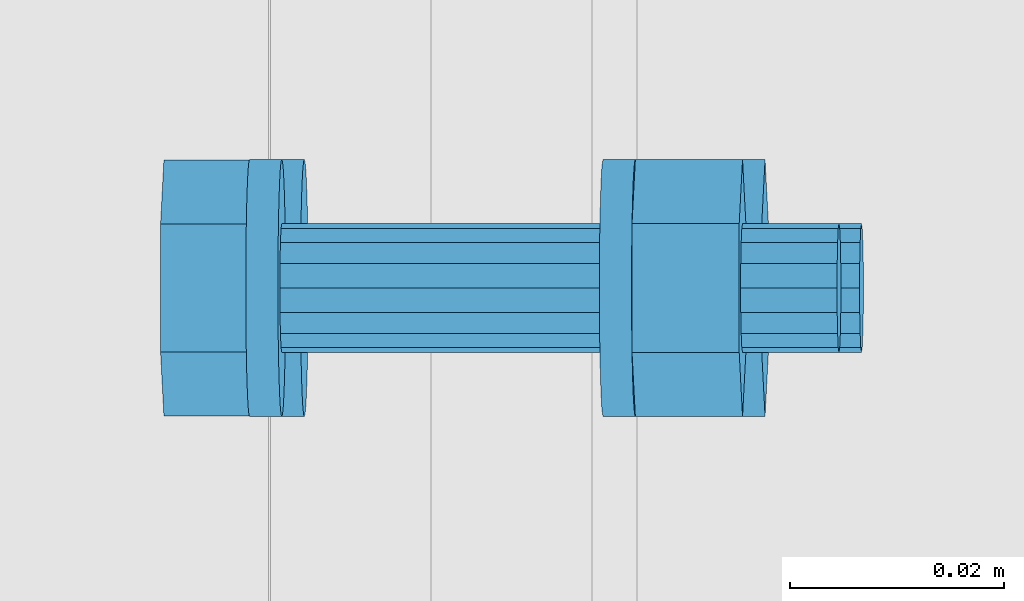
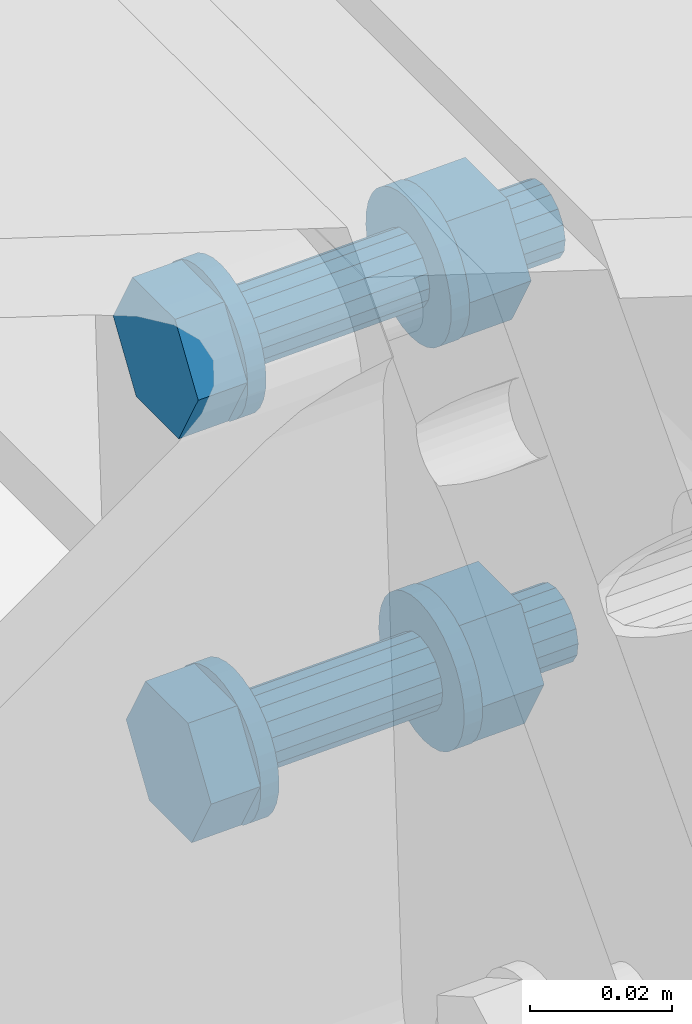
# One storey, part 129 of 476: 1 mechanical fastener.
"""IFC2X3 building model written with IfcOpenShell, lengths in millimetres."""

from ifc_helpers import new_model, entity, si_unit, converted_unit, origin_with_axes, place, context, project, spatial, faceted_brep, element, save


model = new_model("IFC2X3")

# Units and contexts
model_context = context("Model", 3, precision=1e-09, world=origin_with_axes())
ifc_project = project(units=[si_unit("LENGTHUNIT", "METRE", prefix="MILLI"), si_unit("AREAUNIT", "SQUARE_METRE"), si_unit("VOLUMEUNIT", "CUBIC_METRE"), converted_unit("PLANEANGLEUNIT", "DEGREE", entity("IfcPlaneAngleMeasure", 0.01745329), si_unit("PLANEANGLEUNIT", "RADIAN"), dimensions=[0, 0, 0, 0, 0, 0, 0])], contexts=[model_context])

# Site, building, storey
site_placement = place(None, origin_with_axes())
site = spatial("IfcSite", under=ifc_project, at=site_placement, Name="mKR Teilneubau & Sanierung BA1 - Ostfildern", CompositionType="ELEMENT")
building_placement = place(site_placement, origin_with_axes())
building = spatial("IfcBuilding", under=site, at=building_placement, Name="Struktur 1", CompositionType="ELEMENT")
storey_placement = place(building_placement, origin_with_axes())
storey = spatial("IfcBuildingStorey", under=building, at=storey_placement, Name="Default Storey", CompositionType="ELEMENT", Elevation=0.0)

# Mechanical fastener
mechanical_fastener_placement = place(None, origin_with_axes())
element("IfcMechanicalFastener", 1, at=mechanical_fastener_placement, inside=storey, ObjectType="Bolt#2", NominalDiameter=12.0, NominalLength=55.0, context=model_context, shape_type="Brep", body=[
    faceted_brep([(12697.650625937, -7992.673034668, 5287.367806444), (12700.649273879, -7992.673034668, 5287.457864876), (12700.642352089, -7995.014118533, 5287.688337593), (12697.643704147, -7995.014118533, 5287.598279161), (12700.621852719, -7997.265235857, 5288.370898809), (12697.623204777, -7997.265235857, 5288.280840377), (12700.588563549, -7999.339877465, 5289.479318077), (12697.589915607, -7999.339877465, 5289.389259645), (12700.543763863, -8001.158316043, 5290.970999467), (12697.545115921, -8001.158316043, 5290.880941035), (12700.489175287, -8002.650670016, 5292.7886185), (12697.490527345, -8002.650670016, 5292.698560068), (12700.42689563, -8003.759589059, 5294.862325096), (12697.428247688, -8003.759589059, 5294.772266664), (12700.359318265, -8004.442458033, 5297.112427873), (12697.360670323, -8004.442458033, 5297.022369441), (12700.289040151, -8004.673034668, 5299.452456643), (12697.290392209, -8004.673034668, 5299.362398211), (12700.218762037, -8004.442458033, 5301.792485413), (12697.220114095, -8004.442458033, 5301.702426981), (12700.151184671, -8003.759589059, 5304.04258819), (12697.15253673, -8003.759589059, 5303.952529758), (12700.088905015, -8002.650670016, 5306.116294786), (12697.090257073, -8002.650670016, 5306.026236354), (12700.034316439, -8001.158316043, 5307.933913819), (12697.035668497, -8001.158316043, 5307.843855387), (12699.989516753, -7999.339877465, 5309.425595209), (12696.990868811, -7999.339877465, 5309.335536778), (12699.956227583, -7997.265235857, 5310.534014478), (12696.957579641, -7997.265235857, 5310.443956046), (12699.935728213, -7995.014118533, 5311.216575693), (12696.937080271, -7995.014118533, 5311.126517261), (12699.928806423, -7992.673034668, 5311.44704841), (12696.930158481, -7992.673034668, 5311.356989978), (12699.935728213, -7990.331950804, 5311.216575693), (12696.937080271, -7990.331950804, 5311.126517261), (12699.956227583, -7988.08083348, 5310.534014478), (12696.957579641, -7988.08083348, 5310.443956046), (12699.989516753, -7986.006191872, 5309.425595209), (12696.990868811, -7986.006191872, 5309.335536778), (12700.034316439, -7984.187753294, 5307.933913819), (12697.035668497, -7984.187753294, 5307.843855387), (12700.088905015, -7982.695399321, 5306.116294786), (12697.090257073, -7982.695399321, 5306.026236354), (12700.151184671, -7981.586480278, 5304.04258819), (12697.15253673, -7981.586480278, 5303.952529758), (12700.218762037, -7980.903611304, 5301.792485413), (12697.220114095, -7980.903611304, 5301.702426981), (12700.289040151, -7980.673034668, 5299.452456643), (12697.290392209, -7980.673034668, 5299.362398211), (12700.359318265, -7980.903611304, 5297.112427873), (12697.360670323, -7980.903611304, 5297.022369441), (12700.42689563, -7981.586480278, 5294.862325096), (12697.428247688, -7981.586480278, 5294.772266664), (12700.489175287, -7982.695399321, 5292.7886185), (12697.490527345, -7982.695399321, 5292.698560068), (12700.543763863, -7984.187753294, 5290.970999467), (12697.545115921, -7984.187753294, 5290.880941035), (12700.588563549, -7986.006191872, 5289.479318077), (12697.589915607, -7986.006191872, 5289.389259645), (12700.621852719, -7988.08083348, 5288.370898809), (12697.623204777, -7988.08083348, 5288.280840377), (12700.642352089, -7990.331950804, 5287.688337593), (12697.643704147, -7990.331950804, 5287.598279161)], [[[0, 1, 2, 3]], [[3, 2, 4, 5]], [[5, 4, 6, 7]], [[7, 6, 8, 9]], [[9, 8, 10, 11]], [[11, 10, 12, 13]], [[13, 12, 14, 15]], [[15, 14, 16, 17]], [[17, 16, 18, 19]], [[19, 18, 20, 21]], [[21, 20, 22, 23]], [[23, 22, 24, 25]], [[25, 24, 26, 27]], [[27, 26, 28, 29]], [[29, 28, 30, 31]], [[31, 30, 32, 33]], [[33, 32, 34, 35]], [[35, 34, 36, 37]], [[37, 36, 38, 39]], [[39, 38, 40, 41]], [[41, 40, 42, 43]], [[43, 42, 44, 45]], [[45, 44, 46, 47]], [[47, 46, 48, 49]], [[49, 48, 50, 51]], [[51, 50, 52, 53]], [[53, 52, 54, 55]], [[55, 54, 56, 57]], [[57, 56, 58, 59]], [[59, 58, 60, 61]], [[61, 60, 62, 63]], [[63, 62, 1, 0]], [[0, 3, 5, 7, 9, 11, 13, 15, 17, 19, 21, 23, 25, 27, 29, 31, 33, 35, 37, 39, 41, 43, 45, 47, 49, 51, 53, 55, 57, 59, 61, 63]], [[1, 62, 60, 58, 56, 54, 52, 50, 48, 46, 44, 42, 40, 38, 36, 34, 32, 30, 28, 26, 24, 22, 20, 18, 16, 14, 12, 10, 8, 6, 4, 2]]]),
    faceted_brep([(12695.549262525, -7992.673034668, 5357.336258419), (12698.547910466, -7992.673034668, 5357.426316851), (12698.540988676, -7995.014118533, 5357.656789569), (12695.542340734, -7995.014118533, 5357.566731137), (12698.520489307, -7997.265235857, 5358.339350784), (12695.521841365, -7997.265235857, 5358.249292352), (12698.487200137, -7999.339877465, 5359.447770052), (12695.488552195, -7999.339877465, 5359.35771162), (12698.44240045, -8001.158316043, 5360.939451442), (12695.443752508, -8001.158316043, 5360.84939301), (12698.387811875, -8002.650670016, 5362.757070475), (12695.389163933, -8002.650670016, 5362.667012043), (12698.325532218, -8003.759589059, 5364.830777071), (12695.326884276, -8003.759589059, 5364.740718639), (12698.257954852, -8004.442458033, 5367.080879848), (12695.259306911, -8004.442458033, 5366.990821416), (12698.187676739, -8004.673034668, 5369.420908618), (12695.189028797, -8004.673034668, 5369.330850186), (12698.117398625, -8004.442458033, 5371.760937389), (12695.118750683, -8004.442458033, 5371.670878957), (12698.049821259, -8003.759589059, 5374.011040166), (12695.051173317, -8003.759589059, 5373.920981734), (12697.987541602, -8002.650670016, 5376.084746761), (12694.988893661, -8002.650670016, 5375.994688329), (12697.932953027, -8001.158316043, 5377.902365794), (12694.934305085, -8001.158316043, 5377.812307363), (12697.888153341, -7999.339877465, 5379.394047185), (12694.889505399, -7999.339877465, 5379.303988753), (12697.85486417, -7997.265235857, 5380.502466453), (12694.856216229, -7997.265235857, 5380.412408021), (12697.834364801, -7995.014118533, 5381.185027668), (12694.835716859, -7995.014118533, 5381.094969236), (12697.827443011, -7992.673034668, 5381.415500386), (12694.828795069, -7992.673034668, 5381.325441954), (12697.834364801, -7990.331950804, 5381.185027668), (12694.835716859, -7990.331950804, 5381.094969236), (12697.85486417, -7988.08083348, 5380.502466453), (12694.856216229, -7988.08083348, 5380.412408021), (12697.888153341, -7986.006191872, 5379.394047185), (12694.889505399, -7986.006191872, 5379.303988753), (12697.932953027, -7984.187753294, 5377.902365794), (12694.934305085, -7984.187753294, 5377.812307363), (12697.987541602, -7982.695399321, 5376.084746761), (12694.988893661, -7982.695399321, 5375.994688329), (12698.049821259, -7981.586480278, 5374.011040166), (12695.051173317, -7981.586480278, 5373.920981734), (12698.117398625, -7980.903611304, 5371.760937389), (12695.118750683, -7980.903611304, 5371.670878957), (12698.187676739, -7980.673034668, 5369.420908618), (12695.189028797, -7980.673034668, 5369.330850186), (12698.257954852, -7980.903611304, 5367.080879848), (12695.259306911, -7980.903611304, 5366.990821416), (12698.325532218, -7981.586480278, 5364.830777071), (12695.326884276, -7981.586480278, 5364.740718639), (12698.387811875, -7982.695399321, 5362.757070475), (12695.389163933, -7982.695399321, 5362.667012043), (12698.44240045, -7984.187753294, 5360.939451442), (12695.443752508, -7984.187753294, 5360.84939301), (12698.487200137, -7986.006191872, 5359.447770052), (12695.488552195, -7986.006191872, 5359.35771162), (12698.520489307, -7988.08083348, 5358.339350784), (12695.521841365, -7988.08083348, 5358.249292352), (12698.540988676, -7990.331950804, 5357.656789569), (12695.542340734, -7990.331950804, 5357.566731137)], [[[0, 1, 2, 3]], [[3, 2, 4, 5]], [[5, 4, 6, 7]], [[7, 6, 8, 9]], [[9, 8, 10, 11]], [[11, 10, 12, 13]], [[13, 12, 14, 15]], [[15, 14, 16, 17]], [[17, 16, 18, 19]], [[19, 18, 20, 21]], [[21, 20, 22, 23]], [[23, 22, 24, 25]], [[25, 24, 26, 27]], [[27, 26, 28, 29]], [[29, 28, 30, 31]], [[31, 30, 32, 33]], [[33, 32, 34, 35]], [[35, 34, 36, 37]], [[37, 36, 38, 39]], [[39, 38, 40, 41]], [[41, 40, 42, 43]], [[43, 42, 44, 45]], [[45, 44, 46, 47]], [[47, 46, 48, 49]], [[49, 48, 50, 51]], [[51, 50, 52, 53]], [[53, 52, 54, 55]], [[55, 54, 56, 57]], [[57, 56, 58, 59]], [[59, 58, 60, 61]], [[61, 60, 62, 63]], [[63, 62, 1, 0]], [[0, 3, 5, 7, 9, 11, 13, 15, 17, 19, 21, 23, 25, 27, 29, 31, 33, 35, 37, 39, 41, 43, 45, 47, 49, 51, 53, 55, 57, 59, 61, 63]], [[1, 62, 60, 58, 56, 54, 52, 50, 48, 46, 44, 42, 40, 38, 36, 34, 32, 30, 28, 26, 24, 22, 20, 18, 16, 14, 12, 10, 8, 6, 4, 2]]]),
    faceted_brep([(12696.979590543, -7998.650534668, 5309.71106581), (12688.983196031, -7998.650534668, 5309.470909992), (12689.293997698, -8004.628034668, 5299.122242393), (12697.290392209, -8004.628034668, 5299.362398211), (12689.604799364, -7998.650534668, 5288.773574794), (12697.601193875, -7998.650534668, 5289.013730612), (12689.604799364, -7986.695534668, 5288.773574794), (12697.601193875, -7986.695534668, 5289.013730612), (12689.293997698, -7980.718034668, 5299.122242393), (12697.290392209, -7980.718034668, 5299.362398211), (12688.983196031, -7986.695534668, 5309.470909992), (12696.979590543, -7986.695534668, 5309.71106581)], [[[0, 1, 2, 3]], [[3, 2, 4, 5]], [[5, 4, 6, 7]], [[7, 6, 8, 9]], [[9, 8, 10, 11]], [[11, 10, 1, 0]], [[4, 2, 1, 10, 8, 6]], [[0, 3, 5, 7, 9, 11]]]),
    faceted_brep([(12694.87822713, -7998.650534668, 5379.679517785), (12686.881832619, -7998.650534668, 5379.439361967), (12687.192634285, -8004.628034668, 5369.090694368), (12695.189028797, -8004.628034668, 5369.330850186), (12687.503435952, -7998.650534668, 5358.742026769), (12695.499830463, -7998.650534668, 5358.982182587), (12687.503435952, -7986.695534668, 5358.742026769), (12695.499830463, -7986.695534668, 5358.982182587), (12687.192634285, -7980.718034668, 5369.090694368), (12695.189028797, -7980.718034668, 5369.330850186), (12686.881832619, -7986.695534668, 5379.439361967), (12694.87822713, -7986.695534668, 5379.679517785)], [[[0, 1, 2, 3]], [[3, 2, 4, 5]], [[5, 4, 6, 7]], [[7, 6, 8, 9]], [[9, 8, 10, 11]], [[11, 10, 1, 0]], [[4, 2, 1, 10, 8, 6]], [[0, 3, 5, 7, 9, 11]]]),
    faceted_brep([(12700.469157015, -7992.673034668, 5293.45516076), (12730.455636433, -7992.673034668, 5294.355745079), (12730.441925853, -7994.969135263, 5294.812262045), (12700.455446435, -7994.969135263, 5293.911677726), (12730.402881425, -7996.915675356, 5296.112312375), (12700.416402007, -7996.915675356, 5295.211728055), (12730.344447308, -7998.216311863, 5298.057975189), (12700.357967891, -7998.216311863, 5297.157390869), (12730.275519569, -7998.673034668, 5300.353040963), (12700.289040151, -7998.673034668, 5299.452456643), (12730.206591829, -7998.216311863, 5302.648106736), (12700.220112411, -7998.216311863, 5301.747522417), (12730.148157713, -7996.915675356, 5304.593769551), (12700.161678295, -7996.915675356, 5303.693185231), (12730.109113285, -7994.969135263, 5305.89381988), (12700.122633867, -7994.969135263, 5304.99323556), (12730.095402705, -7992.673034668, 5306.350336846), (12700.108923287, -7992.673034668, 5305.449752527), (12730.109113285, -7990.376934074, 5305.89381988), (12700.122633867, -7990.376934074, 5304.99323556), (12730.148157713, -7988.430393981, 5304.593769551), (12700.161678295, -7988.430393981, 5303.693185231), (12730.206591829, -7987.129757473, 5302.648106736), (12700.220112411, -7987.129757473, 5301.747522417), (12730.275519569, -7986.673034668, 5300.353040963), (12700.289040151, -7986.673034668, 5299.452456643), (12730.344447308, -7987.129757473, 5298.057975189), (12700.357967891, -7987.129757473, 5297.157390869), (12730.402881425, -7988.430393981, 5296.112312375), (12700.416402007, -7988.430393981, 5295.211728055), (12730.441925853, -7990.376934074, 5294.812262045), (12700.455446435, -7990.376934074, 5293.911677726)], [[[0, 1, 2, 3]], [[3, 2, 4, 5]], [[5, 4, 6, 7]], [[7, 6, 8, 9]], [[9, 8, 10, 11]], [[11, 10, 12, 13]], [[13, 12, 14, 15]], [[15, 14, 16, 17]], [[17, 16, 18, 19]], [[19, 18, 20, 21]], [[21, 20, 22, 23]], [[23, 22, 24, 25]], [[25, 24, 26, 27]], [[27, 26, 28, 29]], [[29, 28, 30, 31]], [[31, 30, 1, 0]], [[0, 3, 5, 7, 9, 11, 13, 15, 17, 19, 21, 23, 25, 27, 29, 31]], [[1, 30, 28, 26, 24, 22, 20, 18, 16, 14, 12, 10, 8, 6, 4, 2]]]),
    faceted_brep([(12698.367793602, -7992.673034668, 5363.423612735), (12728.35427302, -7992.673034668, 5364.324197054), (12728.340562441, -7994.969135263, 5364.780714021), (12698.354083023, -7994.969135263, 5363.880129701), (12728.301518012, -7996.915675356, 5366.08076435), (12698.315038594, -7996.915675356, 5365.18018003), (12728.243083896, -7998.216311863, 5368.026427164), (12698.256604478, -7998.216311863, 5367.125842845), (12728.174156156, -7998.673034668, 5370.321492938), (12698.187676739, -7998.673034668, 5369.420908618), (12728.105228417, -7998.216311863, 5372.616558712), (12698.118748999, -7998.216311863, 5371.715974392), (12728.046794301, -7996.915675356, 5374.562221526), (12698.060314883, -7996.915675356, 5373.661637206), (12728.007749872, -7994.969135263, 5375.862271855), (12698.021270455, -7994.969135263, 5374.961687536), (12727.994039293, -7992.673034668, 5376.318788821), (12698.007559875, -7992.673034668, 5375.418204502), (12728.007749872, -7990.376934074, 5375.862271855), (12698.021270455, -7990.376934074, 5374.961687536), (12728.046794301, -7988.430393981, 5374.562221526), (12698.060314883, -7988.430393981, 5373.661637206), (12728.105228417, -7987.129757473, 5372.616558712), (12698.118748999, -7987.129757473, 5371.715974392), (12728.174156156, -7986.673034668, 5370.321492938), (12698.187676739, -7986.673034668, 5369.420908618), (12728.243083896, -7987.129757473, 5368.026427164), (12698.256604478, -7987.129757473, 5367.125842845), (12728.301518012, -7988.430393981, 5366.08076435), (12698.315038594, -7988.430393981, 5365.18018003), (12728.340562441, -7990.376934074, 5364.780714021), (12698.354083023, -7990.376934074, 5363.880129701)], [[[0, 1, 2, 3]], [[3, 2, 4, 5]], [[5, 4, 6, 7]], [[7, 6, 8, 9]], [[9, 8, 10, 11]], [[11, 10, 12, 13]], [[13, 12, 14, 15]], [[15, 14, 16, 17]], [[17, 16, 18, 19]], [[19, 18, 20, 21]], [[21, 20, 22, 23]], [[23, 22, 24, 25]], [[25, 24, 26, 27]], [[27, 26, 28, 29]], [[29, 28, 30, 31]], [[31, 30, 1, 0]], [[0, 3, 5, 7, 9, 11, 13, 15, 17, 19, 21, 23, 25, 27, 29, 31]], [[1, 30, 28, 26, 24, 22, 20, 18, 16, 14, 12, 10, 8, 6, 4, 2]]]),
    faceted_brep([(12730.635753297, -7992.673034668, 5288.358449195), (12733.634401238, -7992.673034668, 5288.448507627), (12733.627479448, -7995.014118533, 5288.678980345), (12730.628831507, -7995.014118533, 5288.588921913), (12733.606980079, -7997.265235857, 5289.36154156), (12730.608332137, -7997.265235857, 5289.271483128), (12733.573690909, -7999.339877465, 5290.469960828), (12730.575042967, -7999.339877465, 5290.379902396), (12733.528891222, -8001.158316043, 5291.961642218), (12730.530243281, -8001.158316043, 5291.871583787), (12733.474302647, -8002.650670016, 5293.779261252), (12730.475654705, -8002.650670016, 5293.68920282), (12733.41202299, -8003.759589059, 5295.852967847), (12730.413375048, -8003.759589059, 5295.762909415), (12733.344445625, -8004.442458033, 5298.103070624), (12730.345797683, -8004.442458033, 5298.013012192), (12733.274167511, -8004.673034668, 5300.443099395), (12730.275519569, -8004.673034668, 5300.353040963), (12733.203889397, -8004.442458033, 5302.783128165), (12730.205241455, -8004.442458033, 5302.693069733), (12733.136312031, -8003.759589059, 5305.033230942), (12730.137664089, -8003.759589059, 5304.94317251), (12733.074032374, -8002.650670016, 5307.106937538), (12730.075384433, -8002.650670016, 5307.016879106), (12733.019443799, -8001.158316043, 5308.924556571), (12730.020795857, -8001.158316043, 5308.834498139), (12732.974644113, -7999.339877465, 5310.416237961), (12729.975996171, -7999.339877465, 5310.326179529), (12732.941354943, -7997.265235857, 5311.524657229), (12729.942707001, -7997.265235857, 5311.434598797), (12732.920855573, -7995.014118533, 5312.207218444), (12729.922207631, -7995.014118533, 5312.117160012), (12732.913933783, -7992.673034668, 5312.437691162), (12729.915285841, -7992.673034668, 5312.34763273), (12732.920855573, -7990.331950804, 5312.207218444), (12729.922207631, -7990.331950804, 5312.117160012), (12732.941354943, -7988.08083348, 5311.524657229), (12729.942707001, -7988.08083348, 5311.434598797), (12732.974644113, -7986.006191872, 5310.416237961), (12729.975996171, -7986.006191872, 5310.326179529), (12733.019443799, -7984.187753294, 5308.924556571), (12730.020795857, -7984.187753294, 5308.834498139), (12733.074032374, -7982.695399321, 5307.106937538), (12730.075384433, -7982.695399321, 5307.016879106), (12733.136312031, -7981.586480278, 5305.033230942), (12730.137664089, -7981.586480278, 5304.94317251), (12733.203889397, -7980.903611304, 5302.783128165), (12730.205241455, -7980.903611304, 5302.693069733), (12733.274167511, -7980.673034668, 5300.443099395), (12730.275519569, -7980.673034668, 5300.353040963), (12733.344445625, -7980.903611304, 5298.103070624), (12730.345797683, -7980.903611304, 5298.013012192), (12733.41202299, -7981.586480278, 5295.852967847), (12730.413375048, -7981.586480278, 5295.762909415), (12733.474302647, -7982.695399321, 5293.779261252), (12730.475654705, -7982.695399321, 5293.68920282), (12733.528891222, -7984.187753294, 5291.961642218), (12730.530243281, -7984.187753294, 5291.871583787), (12733.573690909, -7986.006191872, 5290.469960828), (12730.575042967, -7986.006191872, 5290.379902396), (12733.606980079, -7988.08083348, 5289.36154156), (12730.608332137, -7988.08083348, 5289.271483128), (12733.627479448, -7990.331950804, 5288.678980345), (12730.628831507, -7990.331950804, 5288.588921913)], [[[0, 1, 2, 3]], [[3, 2, 4, 5]], [[5, 4, 6, 7]], [[7, 6, 8, 9]], [[9, 8, 10, 11]], [[11, 10, 12, 13]], [[13, 12, 14, 15]], [[15, 14, 16, 17]], [[17, 16, 18, 19]], [[19, 18, 20, 21]], [[21, 20, 22, 23]], [[23, 22, 24, 25]], [[25, 24, 26, 27]], [[27, 26, 28, 29]], [[29, 28, 30, 31]], [[31, 30, 32, 33]], [[33, 32, 34, 35]], [[35, 34, 36, 37]], [[37, 36, 38, 39]], [[39, 38, 40, 41]], [[41, 40, 42, 43]], [[43, 42, 44, 45]], [[45, 44, 46, 47]], [[47, 46, 48, 49]], [[49, 48, 50, 51]], [[51, 50, 52, 53]], [[53, 52, 54, 55]], [[55, 54, 56, 57]], [[57, 56, 58, 59]], [[59, 58, 60, 61]], [[61, 60, 62, 63]], [[63, 62, 1, 0]], [[0, 3, 5, 7, 9, 11, 13, 15, 17, 19, 21, 23, 25, 27, 29, 31, 33, 35, 37, 39, 41, 43, 45, 47, 49, 51, 53, 55, 57, 59, 61, 63]], [[1, 62, 60, 58, 56, 54, 52, 50, 48, 46, 44, 42, 40, 38, 36, 34, 32, 30, 28, 26, 24, 22, 20, 18, 16, 14, 12, 10, 8, 6, 4, 2]]]),
    faceted_brep([(12728.534389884, -7992.673034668, 5358.326901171), (12731.533037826, -7992.673034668, 5358.416959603), (12731.526116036, -7995.014118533, 5358.64743232), (12728.527468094, -7995.014118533, 5358.557373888), (12731.505616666, -7997.265235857, 5359.329993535), (12728.506968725, -7997.265235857, 5359.239935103), (12731.472327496, -7999.339877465, 5360.438412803), (12728.473679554, -7999.339877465, 5360.348354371), (12731.42752781, -8001.158316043, 5361.930094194), (12728.428879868, -8001.158316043, 5361.840035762), (12731.372939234, -8002.650670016, 5363.747713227), (12728.374291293, -8002.650670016, 5363.657654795), (12731.310659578, -8003.759589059, 5365.821419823), (12728.312011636, -8003.759589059, 5365.731361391), (12731.243082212, -8004.442458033, 5368.0715226), (12728.24443427, -8004.442458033, 5367.981464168), (12731.172804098, -8004.673034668, 5370.41155137), (12728.174156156, -8004.673034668, 5370.321492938), (12731.102525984, -8004.442458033, 5372.75158014), (12728.103878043, -8004.442458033, 5372.661521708), (12731.034948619, -8003.759589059, 5375.001682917), (12728.036300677, -8003.759589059, 5374.911624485), (12730.972668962, -8002.650670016, 5377.075389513), (12727.97402102, -8002.650670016, 5376.985331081), (12730.918080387, -8001.158316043, 5378.893008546), (12727.919432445, -8001.158316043, 5378.802950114), (12730.8732807, -7999.339877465, 5380.384689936), (12727.874632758, -7999.339877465, 5380.294631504), (12730.83999153, -7997.265235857, 5381.493109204), (12727.841343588, -7997.265235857, 5381.403050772), (12730.819492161, -7995.014118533, 5382.17567042), (12727.820844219, -7995.014118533, 5382.085611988), (12730.81257037, -7992.673034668, 5382.406143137), (12727.813922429, -7992.673034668, 5382.316084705), (12730.819492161, -7990.331950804, 5382.17567042), (12727.820844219, -7990.331950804, 5382.085611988), (12730.83999153, -7988.08083348, 5381.493109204), (12727.841343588, -7988.08083348, 5381.403050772), (12730.8732807, -7986.006191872, 5380.384689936), (12727.874632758, -7986.006191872, 5380.294631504), (12730.918080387, -7984.187753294, 5378.893008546), (12727.919432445, -7984.187753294, 5378.802950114), (12730.972668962, -7982.695399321, 5377.075389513), (12727.97402102, -7982.695399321, 5376.985331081), (12731.034948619, -7981.586480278, 5375.001682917), (12728.036300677, -7981.586480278, 5374.911624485), (12731.102525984, -7980.903611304, 5372.75158014), (12728.103878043, -7980.903611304, 5372.661521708), (12731.172804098, -7980.673034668, 5370.41155137), (12728.174156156, -7980.673034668, 5370.321492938), (12731.243082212, -7980.903611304, 5368.0715226), (12728.24443427, -7980.903611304, 5367.981464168), (12731.310659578, -7981.586480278, 5365.821419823), (12728.312011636, -7981.586480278, 5365.731361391), (12731.372939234, -7982.695399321, 5363.747713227), (12728.374291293, -7982.695399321, 5363.657654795), (12731.42752781, -7984.187753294, 5361.930094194), (12728.428879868, -7984.187753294, 5361.840035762), (12731.472327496, -7986.006191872, 5360.438412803), (12728.473679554, -7986.006191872, 5360.348354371), (12731.505616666, -7988.08083348, 5359.329993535), (12728.506968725, -7988.08083348, 5359.239935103), (12731.526116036, -7990.331950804, 5358.64743232), (12728.527468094, -7990.331950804, 5358.557373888)], [[[0, 1, 2, 3]], [[3, 2, 4, 5]], [[5, 4, 6, 7]], [[7, 6, 8, 9]], [[9, 8, 10, 11]], [[11, 10, 12, 13]], [[13, 12, 14, 15]], [[15, 14, 16, 17]], [[17, 16, 18, 19]], [[19, 18, 20, 21]], [[21, 20, 22, 23]], [[23, 22, 24, 25]], [[25, 24, 26, 27]], [[27, 26, 28, 29]], [[29, 28, 30, 31]], [[31, 30, 32, 33]], [[33, 32, 34, 35]], [[35, 34, 36, 37]], [[37, 36, 38, 39]], [[39, 38, 40, 41]], [[41, 40, 42, 43]], [[43, 42, 44, 45]], [[45, 44, 46, 47]], [[47, 46, 48, 49]], [[49, 48, 50, 51]], [[51, 50, 52, 53]], [[53, 52, 54, 55]], [[55, 54, 56, 57]], [[57, 56, 58, 59]], [[59, 58, 60, 61]], [[61, 60, 62, 63]], [[63, 62, 1, 0]], [[0, 3, 5, 7, 9, 11, 13, 15, 17, 19, 21, 23, 25, 27, 29, 31, 33, 35, 37, 39, 41, 43, 45, 47, 49, 51, 53, 55, 57, 59, 61, 63]], [[1, 62, 60, 58, 56, 54, 52, 50, 48, 46, 44, 42, 40, 38, 36, 34, 32, 30, 28, 26, 24, 22, 20, 18, 16, 14, 12, 10, 8, 6, 4, 2]]]),
    faceted_brep([(12742.95768909, -7998.673034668, 5311.130915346), (12732.962195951, -7998.673034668, 5310.830720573), (12733.274167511, -8004.673034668, 5300.443099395), (12743.26966065, -8004.673034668, 5300.743294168), (12733.58613907, -7998.673034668, 5290.055478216), (12743.581632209, -7998.673034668, 5290.355672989), (12733.58613907, -7986.673034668, 5290.055478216), (12743.581632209, -7986.673034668, 5290.355672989), (12733.274167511, -7980.673034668, 5300.443099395), (12743.26966065, -7980.673034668, 5300.743294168), (12732.962195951, -7986.673034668, 5310.830720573), (12742.95768909, -7986.673034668, 5311.130915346)], [[[0, 1, 2, 3]], [[3, 2, 4, 5]], [[5, 4, 6, 7]], [[7, 6, 8, 9]], [[9, 8, 10, 11]], [[11, 10, 1, 0]], [[4, 2, 1, 10, 8, 6]], [[0, 3, 5, 7, 9, 11]]]),
    faceted_brep([(12740.856325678, -7998.673034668, 5381.099367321), (12730.860832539, -7998.673034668, 5380.799172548), (12731.172804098, -8004.673034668, 5370.41155137), (12741.168297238, -8004.673034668, 5370.711746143), (12731.484775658, -7998.673034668, 5360.023930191), (12741.480268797, -7998.673034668, 5360.324124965), (12731.484775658, -7986.673034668, 5360.023930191), (12741.480268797, -7986.673034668, 5360.324124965), (12731.172804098, -7980.673034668, 5370.41155137), (12741.168297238, -7980.673034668, 5370.711746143), (12730.860832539, -7986.673034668, 5380.799172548), (12740.856325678, -7986.673034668, 5381.099367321)], [[[0, 1, 2, 3]], [[3, 2, 4, 5]], [[5, 4, 6, 7]], [[7, 6, 8, 9]], [[9, 8, 10, 11]], [[11, 10, 1, 0]], [[4, 2, 1, 10, 8, 6]], [[0, 3, 5, 7, 9, 11]]]),
    faceted_brep([(12743.449777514, -7992.673034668, 5294.745998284), (12752.445721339, -7992.673034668, 5295.01617358), (12752.432010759, -7994.969135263, 5295.472690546), (12743.436066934, -7994.969135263, 5295.202515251), (12752.392966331, -7996.915675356, 5296.772740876), (12743.397022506, -7996.915675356, 5296.50256558), (12752.334532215, -7998.216311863, 5298.71840369), (12743.33858839, -7998.216311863, 5298.448228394), (12752.265604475, -7998.673034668, 5301.013469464), (12743.26966065, -7998.673034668, 5300.743294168), (12752.196676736, -7998.216311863, 5303.308535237), (12743.20073291, -7998.216311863, 5303.038359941), (12752.138242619, -7996.915675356, 5305.254198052), (12743.142298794, -7996.915675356, 5304.984022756), (12752.099198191, -7994.969135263, 5306.554248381), (12743.103254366, -7994.969135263, 5306.284073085), (12752.085487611, -7992.673034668, 5307.010765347), (12743.089543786, -7992.673034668, 5306.740590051), (12752.099198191, -7990.376934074, 5306.554248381), (12743.103254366, -7990.376934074, 5306.284073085), (12752.138242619, -7988.430393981, 5305.254198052), (12743.142298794, -7988.430393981, 5304.984022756), (12752.196676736, -7987.129757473, 5303.308535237), (12743.20073291, -7987.129757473, 5303.038359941), (12752.265604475, -7986.673034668, 5301.013469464), (12743.26966065, -7986.673034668, 5300.743294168), (12752.334532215, -7987.129757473, 5298.71840369), (12743.33858839, -7987.129757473, 5298.448228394), (12752.392966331, -7988.430393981, 5296.772740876), (12743.397022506, -7988.430393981, 5296.50256558), (12752.432010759, -7990.376934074, 5295.472690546), (12743.436066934, -7990.376934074, 5295.202515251)], [[[0, 1, 2, 3]], [[3, 2, 4, 5]], [[5, 4, 6, 7]], [[7, 6, 8, 9]], [[9, 8, 10, 11]], [[11, 10, 12, 13]], [[13, 12, 14, 15]], [[15, 14, 16, 17]], [[17, 16, 18, 19]], [[19, 18, 20, 21]], [[21, 20, 22, 23]], [[23, 22, 24, 25]], [[25, 24, 26, 27]], [[27, 26, 28, 29]], [[29, 28, 30, 31]], [[31, 30, 1, 0]], [[0, 3, 5, 7, 9, 11, 13, 15, 17, 19, 21, 23, 25, 27, 29, 31]], [[1, 30, 28, 26, 24, 22, 20, 18, 16, 14, 12, 10, 8, 6, 4, 2]]]),
    faceted_brep([(12741.348414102, -7992.673034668, 5364.714450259), (12750.344357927, -7992.673034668, 5364.984625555), (12750.330647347, -7994.969135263, 5365.441142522), (12741.334703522, -7994.969135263, 5365.170967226), (12750.291602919, -7996.915675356, 5366.741192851), (12741.295659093, -7996.915675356, 5366.471017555), (12750.233168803, -7998.216311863, 5368.686855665), (12741.237224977, -7998.216311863, 5368.416680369), (12750.164241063, -7998.673034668, 5370.981921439), (12741.168297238, -7998.673034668, 5370.711746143), (12750.095313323, -7998.216311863, 5373.276987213), (12741.099369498, -7998.216311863, 5373.006811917), (12750.036879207, -7996.915675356, 5375.222650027), (12741.040935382, -7996.915675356, 5374.952474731), (12749.997834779, -7994.969135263, 5376.522700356), (12741.001890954, -7994.969135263, 5376.25252506), (12749.984124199, -7992.673034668, 5376.979217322), (12740.988180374, -7992.673034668, 5376.709042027), (12749.997834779, -7990.376934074, 5376.522700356), (12741.001890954, -7990.376934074, 5376.25252506), (12750.036879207, -7988.430393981, 5375.222650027), (12741.040935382, -7988.430393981, 5374.952474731), (12750.095313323, -7987.129757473, 5373.276987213), (12741.099369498, -7987.129757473, 5373.006811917), (12750.164241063, -7986.673034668, 5370.981921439), (12741.168297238, -7986.673034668, 5370.711746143), (12750.233168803, -7987.129757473, 5368.686855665), (12741.237224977, -7987.129757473, 5368.416680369), (12750.291602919, -7988.430393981, 5366.741192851), (12741.295659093, -7988.430393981, 5366.471017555), (12750.330647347, -7990.376934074, 5365.441142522), (12741.334703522, -7990.376934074, 5365.170967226)], [[[0, 1, 2, 3]], [[3, 2, 4, 5]], [[5, 4, 6, 7]], [[7, 6, 8, 9]], [[9, 8, 10, 11]], [[11, 10, 12, 13]], [[13, 12, 14, 15]], [[15, 14, 16, 17]], [[17, 16, 18, 19]], [[19, 18, 20, 21]], [[21, 20, 22, 23]], [[23, 22, 24, 25]], [[25, 24, 26, 27]], [[27, 26, 28, 29]], [[29, 28, 30, 31]], [[31, 30, 1, 0]], [[0, 3, 5, 7, 9, 11, 13, 15, 17, 19, 21, 23, 25, 27, 29, 31]], [[1, 30, 28, 26, 24, 22, 20, 18, 16, 14, 12, 10, 8, 6, 4, 2]]]),
])

save(model, "model.ifc")
